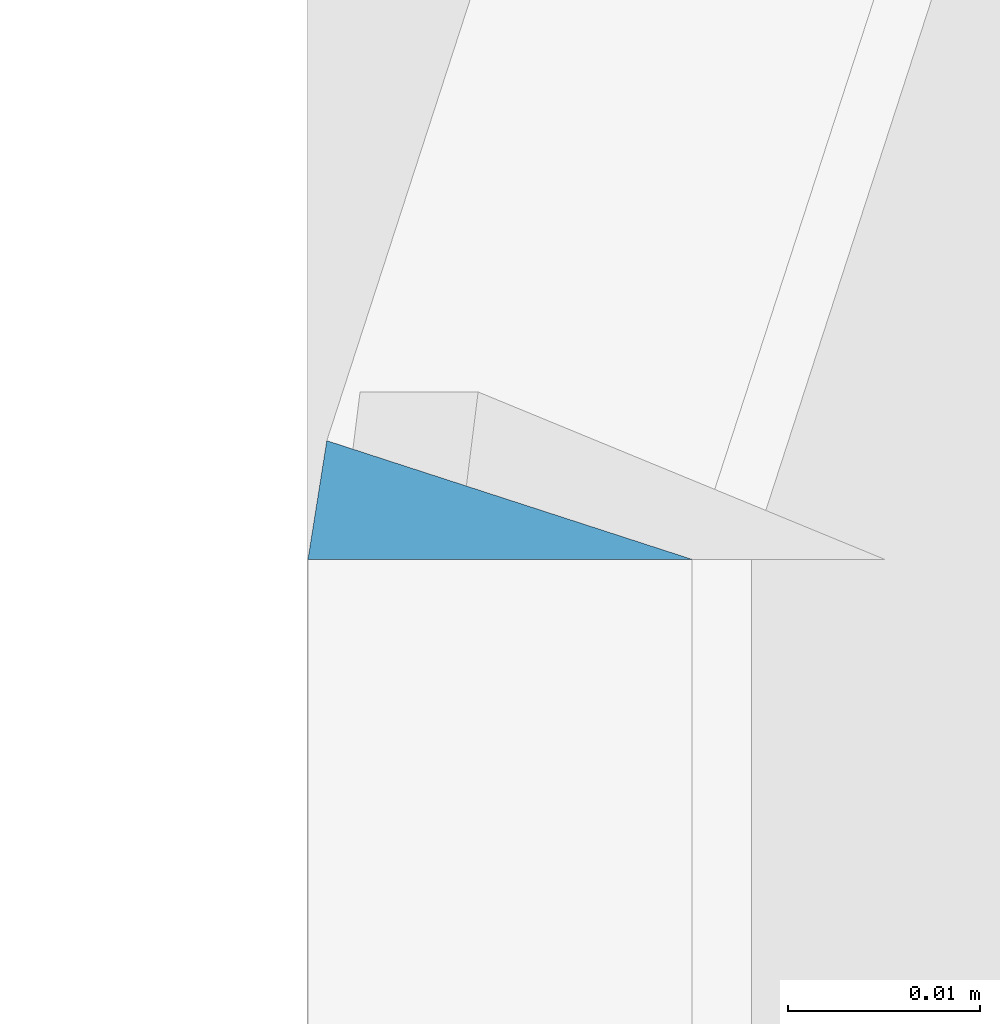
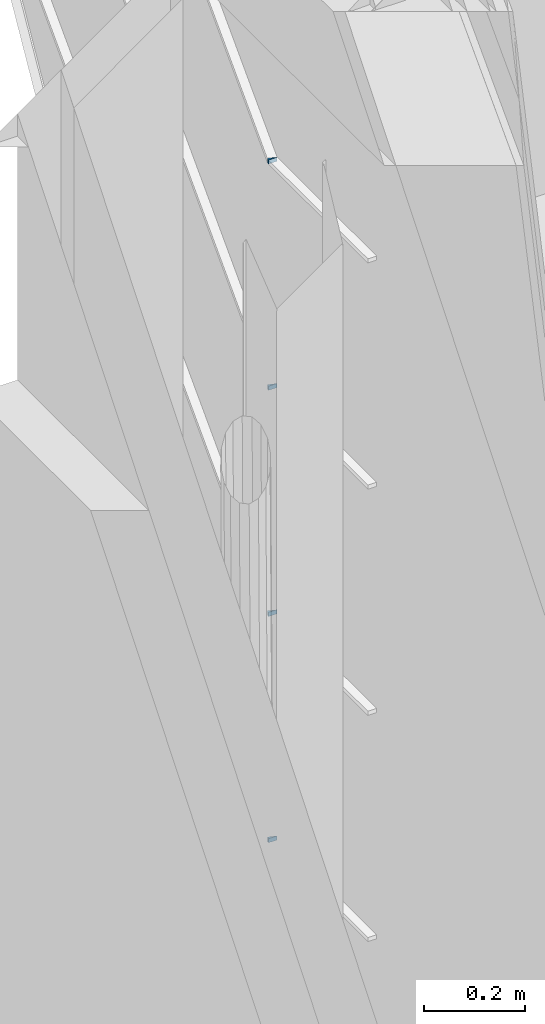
# One storey, part 322 of 583: 4 slabs.
"""IFC2X3 building model written with IfcOpenShell, lengths in metres."""

from ifc_helpers import new_model, entity, si_unit, converted_unit, derived_unit, money_unit, direction, frame, origin_with_axes, place, context, subcontext, project, spatial, faceted_brep, material, type_object, element, save


model = new_model("IFC2X3")

# Units and contexts
model_context = context("Model", 3, precision=1e-05, world=origin_with_axes(), true_north=direction((0.0, 1.0)))
body_context = subcontext(model_context, "Body", "Model", "MODEL_VIEW", scale=1.0)
ifc_project = project(units=[si_unit("LENGTHUNIT", "METRE"), si_unit("AREAUNIT", "SQUARE_METRE"), si_unit("VOLUMEUNIT", "CUBIC_METRE"), si_unit("ABSORBEDDOSEUNIT", "GRAY"), si_unit("AMOUNTOFSUBSTANCEUNIT", "MOLE"), si_unit("DOSEEQUIVALENTUNIT", "SIEVERT"), si_unit("ELECTRICCAPACITANCEUNIT", "FARAD"), si_unit("ELECTRICCHARGEUNIT", "COULOMB"), si_unit("ELECTRICCONDUCTANCEUNIT", "SIEMENS"), si_unit("ELECTRICCURRENTUNIT", "AMPERE"), si_unit("ELECTRICRESISTANCEUNIT", "OHM"), si_unit("ELECTRICVOLTAGEUNIT", "VOLT"), si_unit("ENERGYUNIT", "JOULE"), si_unit("FORCEUNIT", "NEWTON"), si_unit("FREQUENCYUNIT", "HERTZ"), si_unit("ILLUMINANCEUNIT", "LUX"), si_unit("INDUCTANCEUNIT", "HENRY"), si_unit("LUMINOUSFLUXUNIT", "LUMEN"), si_unit("LUMINOUSINTENSITYUNIT", "CANDELA"), si_unit("MAGNETICFLUXDENSITYUNIT", "TESLA"), si_unit("MAGNETICFLUXUNIT", "WEBER"), si_unit("MASSUNIT", "GRAM"), converted_unit("PLANEANGLEUNIT", "degree", entity("IfcReal", 0.0174532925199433), si_unit("PLANEANGLEUNIT", "RADIAN"), dimensions=[0, 0, 0, 0, 0, 0, 0]), si_unit("POWERUNIT", "WATT"), si_unit("PRESSUREUNIT", "PASCAL"), si_unit("RADIOACTIVITYUNIT", "BECQUEREL"), si_unit("SOLIDANGLEUNIT", "STERADIAN"), si_unit("THERMODYNAMICTEMPERATUREUNIT", "KELVIN"), si_unit("TIMEUNIT", "SECOND"), derived_unit("ACCELERATIONUNIT", [(si_unit("LENGTHUNIT", "METRE"), 1), (si_unit("TIMEUNIT", "SECOND"), -2)]), derived_unit("ANGULARVELOCITYUNIT", [(converted_unit("PLANEANGLEUNIT", "degree", entity("IfcReal", 0.0174532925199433), si_unit("PLANEANGLEUNIT", "RADIAN"), dimensions=[0, 0, 0, 0, 0, 0, 0]), 1), (si_unit("TIMEUNIT", "SECOND"), -1)]), derived_unit("CURVATUREUNIT", [(converted_unit("PLANEANGLEUNIT", "degree", entity("IfcReal", 0.0174532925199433), si_unit("PLANEANGLEUNIT", "RADIAN"), dimensions=[0, 0, 0, 0, 0, 0, 0]), 1), (si_unit("LENGTHUNIT", "METRE"), -1)]), derived_unit("DYNAMICVISCOSITYUNIT", [(si_unit("PRESSUREUNIT", "PASCAL"), 1), (si_unit("TIMEUNIT", "SECOND"), 1)]), derived_unit("HEATFLUXDENSITYUNIT", [(si_unit("POWERUNIT", "WATT"), 1), (si_unit("LENGTHUNIT", "METRE"), -2)]), derived_unit("HEATINGVALUEUNIT", [(si_unit("ENERGYUNIT", "JOULE"), 1), (si_unit("MASSUNIT", "GRAM"), -1)]), derived_unit("INTEGERCOUNTRATEUNIT", [(si_unit("TIMEUNIT", "SECOND"), -1)]), derived_unit("IONCONCENTRATIONUNIT", [(si_unit("MASSUNIT", "GRAM"), 1), (si_unit("VOLUMEUNIT", "CUBIC_METRE"), -1)]), derived_unit("ISOTHERMALMOISTURECAPACITYUNIT", [(si_unit("VOLUMEUNIT", "CUBIC_METRE"), 1), (si_unit("MASSUNIT", "GRAM"), -1)]), derived_unit("KINEMATICVISCOSITYUNIT", [(si_unit("AREAUNIT", "SQUARE_METRE"), 1), (si_unit("TIMEUNIT", "SECOND"), -1)]), derived_unit("LINEARFORCEUNIT", [(si_unit("FORCEUNIT", "NEWTON"), 1), (si_unit("LENGTHUNIT", "METRE"), -1)]), derived_unit("LINEARMOMENTUNIT", [(si_unit("FORCEUNIT", "NEWTON"), 1), (si_unit("LENGTHUNIT", "METRE"), -1)]), derived_unit("LINEARSTIFFNESSUNIT", [(si_unit("FORCEUNIT", "NEWTON"), 1), (si_unit("LENGTHUNIT", "METRE"), -1)]), derived_unit("LINEARVELOCITYUNIT", [(si_unit("LENGTHUNIT", "METRE"), 1), (si_unit("TIMEUNIT", "SECOND"), -1)]), derived_unit("LUMINOUSINTENSITYDISTRIBUTIONUNIT", [(si_unit("LUMINOUSINTENSITYUNIT", "CANDELA"), 1), (si_unit("LUMINOUSFLUXUNIT", "LUMEN"), -1)]), derived_unit("MASSDENSITYUNIT", [(si_unit("MASSUNIT", "GRAM"), 1), (si_unit("VOLUMEUNIT", "CUBIC_METRE"), -1)]), derived_unit("MASSFLOWRATEUNIT", [(si_unit("MASSUNIT", "GRAM"), 1), (si_unit("TIMEUNIT", "SECOND"), -1)]), derived_unit("MASSPERLENGTHUNIT", [(si_unit("MASSUNIT", "GRAM"), 1), (si_unit("LENGTHUNIT", "METRE"), -1)]), derived_unit("MODULUSOFELASTICITYUNIT", [(si_unit("FORCEUNIT", "NEWTON"), 1), (si_unit("AREAUNIT", "SQUARE_METRE"), -1)]), derived_unit("MODULUSOFLINEARSUBGRADEREACTIONUNIT", [(si_unit("FORCEUNIT", "NEWTON"), 1), (si_unit("LENGTHUNIT", "METRE"), -2)]), derived_unit("MODULUSOFROTATIONALSUBGRADEREACTIONUNIT", [(si_unit("FORCEUNIT", "NEWTON"), 1), (si_unit("LENGTHUNIT", "METRE"), 1)]), derived_unit("MODULUSOFSUBGRADEREACTIONUNIT", [(si_unit("FORCEUNIT", "NEWTON"), 1), (si_unit("VOLUMEUNIT", "CUBIC_METRE"), -1)]), derived_unit("MOISTUREDIFFUSIVITYUNIT", [(si_unit("VOLUMEUNIT", "CUBIC_METRE"), 1), (si_unit("TIMEUNIT", "SECOND"), -1)]), derived_unit("MOLECULARWEIGHTUNIT", [(si_unit("MASSUNIT", "GRAM"), 1), (si_unit("AMOUNTOFSUBSTANCEUNIT", "MOLE"), -1)]), derived_unit("PLANARFORCEUNIT", [(si_unit("FORCEUNIT", "NEWTON"), 1), (si_unit("LENGTHUNIT", "METRE"), -2)]), derived_unit("ROTATIONALFREQUENCYUNIT", [(si_unit("TIMEUNIT", "SECOND"), -1)]), derived_unit("ROTATIONALMASSUNIT", [(si_unit("MASSUNIT", "GRAM"), 1), (si_unit("LENGTHUNIT", "METRE"), 2)]), derived_unit("ROTATIONALSTIFFNESSUNIT", [(si_unit("FORCEUNIT", "NEWTON"), 1), (si_unit("LENGTHUNIT", "METRE"), 1), (converted_unit("PLANEANGLEUNIT", "degree", entity("IfcReal", 0.0174532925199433), si_unit("PLANEANGLEUNIT", "RADIAN"), dimensions=[0, 0, 0, 0, 0, 0, 0]), -1)]), derived_unit("SECTIONAREAINTEGRALUNIT", [(si_unit("LENGTHUNIT", "METRE"), 5)]), derived_unit("SECTIONMODULUSUNIT", [(si_unit("LENGTHUNIT", "METRE"), 3)]), derived_unit("SHEARMODULUSUNIT", [(si_unit("FORCEUNIT", "NEWTON"), 1), (si_unit("AREAUNIT", "SQUARE_METRE"), -1)]), derived_unit("SOUNDPOWERUNIT", [(si_unit("ENERGYUNIT", "JOULE"), 1), (si_unit("TIMEUNIT", "SECOND"), -1)]), derived_unit("SPECIFICHEATCAPACITYUNIT", [(si_unit("FORCEUNIT", "NEWTON"), 1), (si_unit("MASSUNIT", "GRAM"), -1), (si_unit("THERMODYNAMICTEMPERATUREUNIT", "KELVIN"), -1)]), derived_unit("TEMPERATUREGRADIENTUNIT", [(si_unit("THERMODYNAMICTEMPERATUREUNIT", "KELVIN"), 1), (si_unit("LENGTHUNIT", "METRE"), -1)]), derived_unit("THERMALADMITTANCEUNIT", [(si_unit("POWERUNIT", "WATT"), 1), (si_unit("AREAUNIT", "SQUARE_METRE"), -1), (si_unit("THERMODYNAMICTEMPERATUREUNIT", "KELVIN"), -1)]), derived_unit("THERMALCONDUCTANCEUNIT", [(si_unit("POWERUNIT", "WATT"), 1), (si_unit("LENGTHUNIT", "METRE"), -1), (si_unit("THERMODYNAMICTEMPERATUREUNIT", "KELVIN"), -1)]), derived_unit("THERMALEXPANSIONCOEFFICIENTUNIT", [(si_unit("THERMODYNAMICTEMPERATUREUNIT", "KELVIN"), -1)]), derived_unit("THERMALRESISTANCEUNIT", [(si_unit("AREAUNIT", "SQUARE_METRE"), 1), (si_unit("POWERUNIT", "WATT"), -1)]), derived_unit("THERMALTRANSMITTANCEUNIT", [(si_unit("POWERUNIT", "WATT"), 1), (si_unit("AREAUNIT", "SQUARE_METRE"), -1), (si_unit("THERMODYNAMICTEMPERATUREUNIT", "KELVIN"), -1)]), derived_unit("TORQUEUNIT", [(si_unit("FORCEUNIT", "NEWTON"), 1), (si_unit("LENGTHUNIT", "METRE"), 1)]), derived_unit("VAPORPERMEABILITYUNIT", [(si_unit("MASSUNIT", "GRAM"), 1), (si_unit("TIMEUNIT", "SECOND"), -1)]), derived_unit("VOLUMETRICFLOWRATEUNIT", [(si_unit("VOLUMEUNIT", "CUBIC_METRE"), 1), (si_unit("TIMEUNIT", "SECOND"), -1)]), derived_unit("WARPINGCONSTANTUNIT", [(si_unit("LENGTHUNIT", "METRE"), 6)]), derived_unit("WARPINGMOMENTUNIT", [(si_unit("FORCEUNIT", "NEWTON"), 1), (si_unit("LENGTHUNIT", "METRE"), 2)]), money_unit("GBP")], contexts=[model_context])

# Site, building, storey
site_placement = place(None, origin_with_axes())
site = spatial("IfcSite", under=ifc_project, at=site_placement, Name="Site", CompositionType="ELEMENT")
building_placement = place(site_placement, origin_with_axes())
building = spatial("IfcBuilding", under=site, at=building_placement, Name="Building01", CompositionType="ELEMENT")
storey_placement = place(building_placement, frame((0.0, 0.0, 20.78), z_axis=(0.0, 0.0, 1.0), x_axis=(1.0, 0.0, 0.0)))
storey = spatial("IfcBuildingStorey", under=building, at=storey_placement, Name="RL", CompositionType="ELEMENT", Elevation=20.78)

# Slabs
ifc_material = material(Name="A_BSUK_Roofs")
slab_type = type_object("IfcSlabType", Name="A-FloorsSlabs A_BSUK_Slabs", PredefinedType="FLOOR")
for number, where, z_axis, x_axis, name in (
    (1, (0.500979, 16.280608, -18.224976), (0.0, 1.0, 0.0), (0.0, 0.0, 1.0), "A-FloorsSlabs A_BSUK_Slabs"),
    (2, (0.500979, 16.280608, -18.772476), (0.0, 1.0, 0.0), (0.0, 0.0, 1.0), "A-FloorsSlabs A_BSUK_Slabs"),
    (3, (0.500979, 16.280608, -19.319976), (0.0, 1.0, 0.0), (0.0, 0.0, 1.0), "A-FloorsSlabs A_BSUK_Slabs"),
    (4, (0.500979, 16.280608, -19.867476), (0.0, 1.0, 0.0), (0.0, 0.0, 1.0), "A-FloorsSlabs A_BSUK_Slabs"),
):
    element("IfcSlab", number, at=place(storey_placement, frame(where, z_axis=z_axis, x_axis=x_axis)), inside=storey, type_object=slab_type, material=ifc_material, Name=name, ObjectType="A-FloorsSlabs A_BSUK_Slabs", context=body_context, shape_type="Brep", body=[
        faceted_brep([(0.0, 0.0, 0.0), (-0.01, 0.0, 0.0), (-0.01, -0.000979, -0.00618), (0.0, -0.000979, -0.00618), (-0.01, 0.019021, -0.00618), (0.0, 0.019021, -0.00618)], [[[0, 1, 2, 3]], [[3, 2, 4, 5]], [[5, 4, 1, 0]], [[1, 4, 2]], [[3, 5, 0]]]),
    ])

save(model, "model.ifc")
